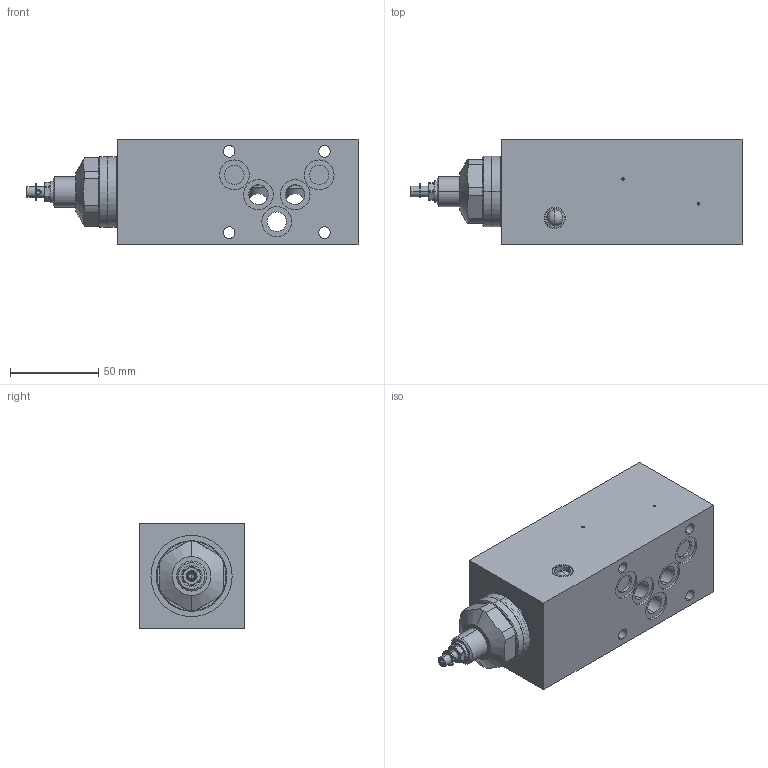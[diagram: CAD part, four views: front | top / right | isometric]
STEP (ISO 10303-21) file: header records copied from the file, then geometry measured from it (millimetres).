
FILE_DESCRIPTION (( 'STEP AP214' ), '1' );
FILE_NAME ('QZSSA10-T.STEP', '2017-04-12T14:00:19', ( '' ), ( '' ), 'SwSTEP 2.0', 'SolidWorks 2016', '' );
FILE_SCHEMA (( 'AUTOMOTIVE_DESIGN' ));
Length unit declared in the file: millimetre
Products named in the file (1): QZSSA10-T
Bounding box: 188 x 59.5 x 60 mm (x, y, z)
Volume: 483468.3 mm3; surface area: 58426.9 mm2
Topology: 3 solids, 5 shells, 263 faces, 630 edges, 393 vertices
Faces by surface type: cylinder 116, plane 85, cone 50, torus 8, sphere 4
Entity records: 10776 total; most frequent: CARTESIAN_POINT 1838, DIRECTION 1344, ORIENTED_EDGE 1240, EDGE_CURVE 620, AXIS2_PLACEMENT_3D 555, VERTEX_POINT 393, EDGE_LOOP 305, CIRCLE 291
